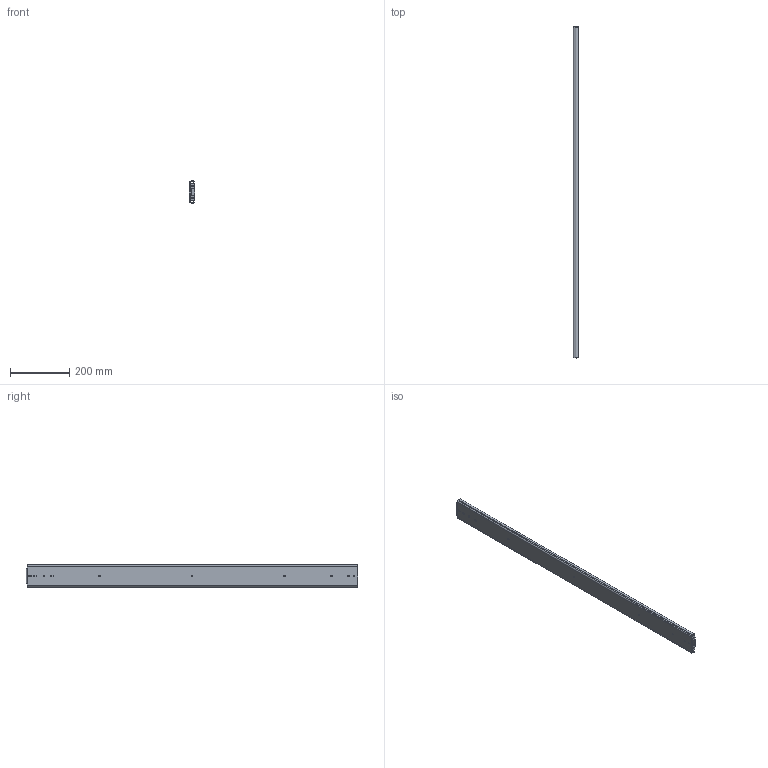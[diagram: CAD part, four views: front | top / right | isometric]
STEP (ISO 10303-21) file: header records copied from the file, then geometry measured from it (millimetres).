
FILE_DESCRIPTION(/* description */ ('Unknown'),/* implementation_level */ '2;1');
FILE_NAME(/* name */ '76J01-44 close',/* time_stamp */ '2024-07-26T16:35:28+08:00',/* author */ ('Unknown'),/* organization */ ('Unknown'),/* preprocessor_version */ 'ST-DEVELOPER v18.104',/* originating_system */ 'Solid Edge',/* authorisation */ 'Unknown');
FILE_SCHEMA (('AUTOMOTIVE_DESIGN {1 0 10303 214 3 1 1}'));
Length unit declared in the file: millimetre
Products named in the file (4): 76J01-44 close; 76J01 44 inch 內`/俋; 76J01 44 ｦT倶ｸｭ; 76J01 44 吋
Assembly tree (3 placements, depth 2):
  76J01-44 close
    76J01 44 inch 內`/俋
    76J01 44 ｦT倶ｸｭ
    76J01 44 吋
Bounding box: 19.3 x 1117.6 x 76.76 mm (x, y, z)
Volume: 880978 mm3; surface area: 548119.7 mm2
Topology: 3 solids, 3 shells, 194 faces, 599 edges, 405 vertices
Faces by surface type: plane 104, cylinder 90
Full cylindrical faces by diameter (mm): 5.2 x15, 7.1 x2
Entity records: 7096 total; most frequent: CARTESIAN_POINT 1154, DIRECTION 1141, ORIENTED_EDGE 1130, EDGE_CURVE 565, VERTEX_POINT 388, LINE 383, VECTOR 383, AXIS2_PLACEMENT_3D 379
